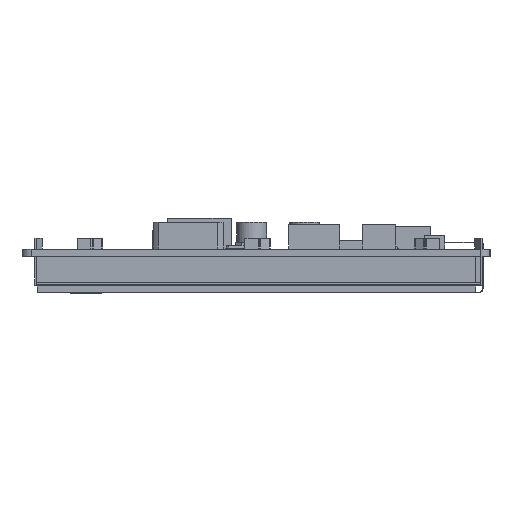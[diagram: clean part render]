
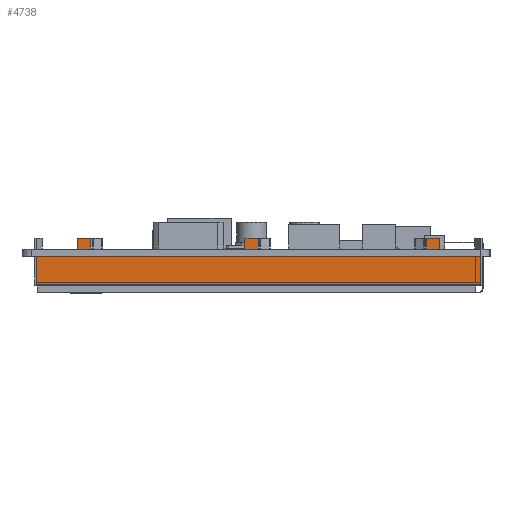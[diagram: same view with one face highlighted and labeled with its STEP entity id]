
A CAD part, left-side view. The second image highlights one B-rep face of the part: STEP entity #4738.
In plain terms, the highlighted planar face has unit normal (-1, 0, 0).
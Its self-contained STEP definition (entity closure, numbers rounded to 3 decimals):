
#4738=ADVANCED_FACE('',(#7848),#6229,.F.);
#6229=PLANE('',#37379);
#7848=FACE_OUTER_BOUND('',#9585,.T.);
#9585=EDGE_LOOP('',(#18152,#18153,#18154,#18155,#18156,#18157,#18158,#18159,
#18160,#18161,#18162,#18163,#18164,#18165,#18166,#18167,#18168,#18169,#18170));
#18152=ORIENTED_EDGE('',*,*,#26519,.T.);
#18153=ORIENTED_EDGE('',*,*,#26530,.T.);
#18154=ORIENTED_EDGE('',*,*,#26531,.F.);
#18155=ORIENTED_EDGE('',*,*,#26532,.T.);
#18156=ORIENTED_EDGE('',*,*,#26533,.F.);
#18157=ORIENTED_EDGE('',*,*,#26517,.T.);
#18158=ORIENTED_EDGE('',*,*,#26534,.T.);
#18159=ORIENTED_EDGE('',*,*,#26535,.F.);
#18160=ORIENTED_EDGE('',*,*,#26536,.F.);
#18161=ORIENTED_EDGE('',*,*,#26537,.T.);
#18162=ORIENTED_EDGE('',*,*,#26525,.T.);
#18163=ORIENTED_EDGE('',*,*,#26538,.T.);
#18164=ORIENTED_EDGE('',*,*,#26539,.F.);
#18165=ORIENTED_EDGE('',*,*,#26540,.F.);
#18166=ORIENTED_EDGE('',*,*,#26541,.T.);
#18167=ORIENTED_EDGE('',*,*,#26529,.T.);
#18168=ORIENTED_EDGE('',*,*,#26542,.F.);
#18169=ORIENTED_EDGE('',*,*,#26543,.F.);
#18170=ORIENTED_EDGE('',*,*,#26544,.T.);
#21986=VERTEX_POINT('',#54807);
#21988=VERTEX_POINT('',#54811);
#21989=VERTEX_POINT('',#54815);
#21991=VERTEX_POINT('',#54818);
#21994=VERTEX_POINT('',#54825);
#21996=VERTEX_POINT('',#54829);
#21998=VERTEX_POINT('',#54834);
#22000=VERTEX_POINT('',#54838);
#22001=VERTEX_POINT('',#54842);
#22002=VERTEX_POINT('',#54844);
#22003=VERTEX_POINT('',#54846);
#22004=VERTEX_POINT('',#54849);
#22005=VERTEX_POINT('',#54851);
#22006=VERTEX_POINT('',#54853);
#22007=VERTEX_POINT('',#54856);
#22008=VERTEX_POINT('',#54858);
#22009=VERTEX_POINT('',#54860);
#22010=VERTEX_POINT('',#54863);
#22011=VERTEX_POINT('',#54865);
#26517=EDGE_CURVE('',#21986,#21988,#30861,.T.);
#26519=EDGE_CURVE('',#21991,#21989,#30863,.T.);
#26525=EDGE_CURVE('',#21994,#21996,#30869,.T.);
#26529=EDGE_CURVE('',#21998,#22000,#30873,.T.);
#26530=EDGE_CURVE('',#21989,#22001,#30874,.T.);
#26531=EDGE_CURVE('',#22002,#22001,#30875,.T.);
#26532=EDGE_CURVE('',#22002,#22003,#30876,.T.);
#26533=EDGE_CURVE('',#21986,#22003,#30877,.T.);
#26534=EDGE_CURVE('',#21988,#22004,#30878,.T.);
#26535=EDGE_CURVE('',#22005,#22004,#30879,.T.);
#26536=EDGE_CURVE('',#22006,#22005,#30880,.T.);
#26537=EDGE_CURVE('',#22006,#21994,#30881,.T.);
#26538=EDGE_CURVE('',#21996,#22007,#30882,.T.);
#26539=EDGE_CURVE('',#22008,#22007,#30883,.T.);
#26540=EDGE_CURVE('',#22009,#22008,#30884,.T.);
#26541=EDGE_CURVE('',#22009,#21998,#30885,.T.);
#26542=EDGE_CURVE('',#22010,#22000,#30886,.T.);
#26543=EDGE_CURVE('',#22011,#22010,#30887,.T.);
#26544=EDGE_CURVE('',#22011,#21991,#30888,.T.);
#30861=LINE('',#54812,#35130);
#30863=LINE('',#54817,#35132);
#30869=LINE('',#54830,#35138);
#30873=LINE('',#54839,#35142);
#30874=LINE('',#54841,#35143);
#30875=LINE('',#54843,#35144);
#30876=LINE('',#54845,#35145);
#30877=LINE('',#54847,#35146);
#30878=LINE('',#54848,#35147);
#30879=LINE('',#54850,#35148);
#30880=LINE('',#54852,#35149);
#30881=LINE('',#54854,#35150);
#30882=LINE('',#54855,#35151);
#30883=LINE('',#54857,#35152);
#30884=LINE('',#54859,#35153);
#30885=LINE('',#54861,#35154);
#30886=LINE('',#54862,#35155);
#30887=LINE('',#54864,#35156);
#30888=LINE('',#54866,#35157);
#35130=VECTOR('',#45002,1.);
#35132=VECTOR('',#45006,1.);
#35138=VECTOR('',#45014,1.);
#35142=VECTOR('',#45020,1.);
#35143=VECTOR('',#45023,1.);
#35144=VECTOR('',#45024,1.);
#35145=VECTOR('',#45025,1.);
#35146=VECTOR('',#45026,1.);
#35147=VECTOR('',#45027,1.);
#35148=VECTOR('',#45028,1.);
#35149=VECTOR('',#45029,1.);
#35150=VECTOR('',#45030,1.);
#35151=VECTOR('',#45031,1.);
#35152=VECTOR('',#45032,1.);
#35153=VECTOR('',#45033,1.);
#35154=VECTOR('',#45034,1.);
#35155=VECTOR('',#45035,1.);
#35156=VECTOR('',#45036,1.);
#35157=VECTOR('',#45037,1.);
#37379=AXIS2_PLACEMENT_3D('',#54867,#45038,#45039);
#45002=DIRECTION('',(0.,1.,0.));
#45006=DIRECTION('',(0.,1.,0.));
#45014=DIRECTION('',(0.,1.,0.));
#45020=DIRECTION('',(0.,1.,0.));
#45023=DIRECTION('',(0.,0.,1.));
#45024=DIRECTION('',(0.,-1.,0.));
#45025=DIRECTION('',(0.,0.,-1.));
#45026=DIRECTION('',(0.,0.,1.));
#45027=DIRECTION('',(0.,0.,1.));
#45028=DIRECTION('',(0.,0.,-1.));
#45029=DIRECTION('',(0.,-1.,0.));
#45030=DIRECTION('',(0.,0.,-1.));
#45031=DIRECTION('',(0.,0.,1.));
#45032=DIRECTION('',(0.,0.,-1.));
#45033=DIRECTION('',(0.,-1.,0.));
#45034=DIRECTION('',(0.,0.,-1.));
#45035=DIRECTION('',(0.,0.,1.));
#45036=DIRECTION('',(0.,1.,0.));
#45037=DIRECTION('',(0.,0.,1.));
#45038=DIRECTION('',(1.,0.,0.));
#45039=DIRECTION('',(0.,-1.,0.));
#54807=CARTESIAN_POINT('',(435.624,-41.014,-1.6));
#54811=CARTESIAN_POINT('',(435.624,-3.188,-1.6));
#54812=CARTESIAN_POINT('',(435.624,-53.245,-1.6));
#54815=CARTESIAN_POINT('',(435.624,-44.038,-1.6));
#54817=CARTESIAN_POINT('',(435.624,-53.245,-1.6));
#54818=CARTESIAN_POINT('',(435.624,-53.245,-1.6));
#54825=CARTESIAN_POINT('',(435.624,-0.18,-1.6));
#54829=CARTESIAN_POINT('',(435.624,34.5,-1.6));
#54830=CARTESIAN_POINT('',(435.624,-53.245,-1.6));
#54834=CARTESIAN_POINT('',(435.624,37.54,-1.6));
#54838=CARTESIAN_POINT('',(435.624,46.775,-1.6));
#54839=CARTESIAN_POINT('',(435.624,-53.245,-1.6));
#54841=CARTESIAN_POINT('',(435.624,-44.038,-1.6));
#54842=CARTESIAN_POINT('',(435.624,-44.038,2.4));
#54843=CARTESIAN_POINT('',(435.624,-41.014,2.4));
#54844=CARTESIAN_POINT('',(435.624,-41.014,2.4));
#54845=CARTESIAN_POINT('',(435.624,-41.014,2.4));
#54846=CARTESIAN_POINT('',(435.624,-41.014,0.));
#54847=CARTESIAN_POINT('',(435.624,-41.014,-1.6));
#54848=CARTESIAN_POINT('',(435.624,-3.188,-1.6));
#54849=CARTESIAN_POINT('',(435.624,-3.188,0.));
#54850=CARTESIAN_POINT('',(435.624,-3.188,2.4));
#54851=CARTESIAN_POINT('',(435.624,-3.188,2.4));
#54852=CARTESIAN_POINT('',(435.624,-0.18,2.4));
#54853=CARTESIAN_POINT('',(435.624,-0.18,2.4));
#54854=CARTESIAN_POINT('',(435.624,-0.18,2.4));
#54855=CARTESIAN_POINT('',(435.624,34.5,-1.6));
#54856=CARTESIAN_POINT('',(435.624,34.5,0.));
#54857=CARTESIAN_POINT('',(435.624,34.5,2.4));
#54858=CARTESIAN_POINT('',(435.624,34.5,2.4));
#54859=CARTESIAN_POINT('',(435.624,37.54,2.4));
#54860=CARTESIAN_POINT('',(435.624,37.54,2.4));
#54861=CARTESIAN_POINT('',(435.624,37.54,2.4));
#54862=CARTESIAN_POINT('',(435.624,46.775,-7.9));
#54863=CARTESIAN_POINT('',(435.624,46.775,-7.9));
#54864=CARTESIAN_POINT('',(435.624,-53.245,-7.9));
#54865=CARTESIAN_POINT('',(435.624,-53.245,-7.9));
#54866=CARTESIAN_POINT('',(435.624,-53.245,-7.9));
#54867=CARTESIAN_POINT('',(435.624,-53.245,-7.9));
